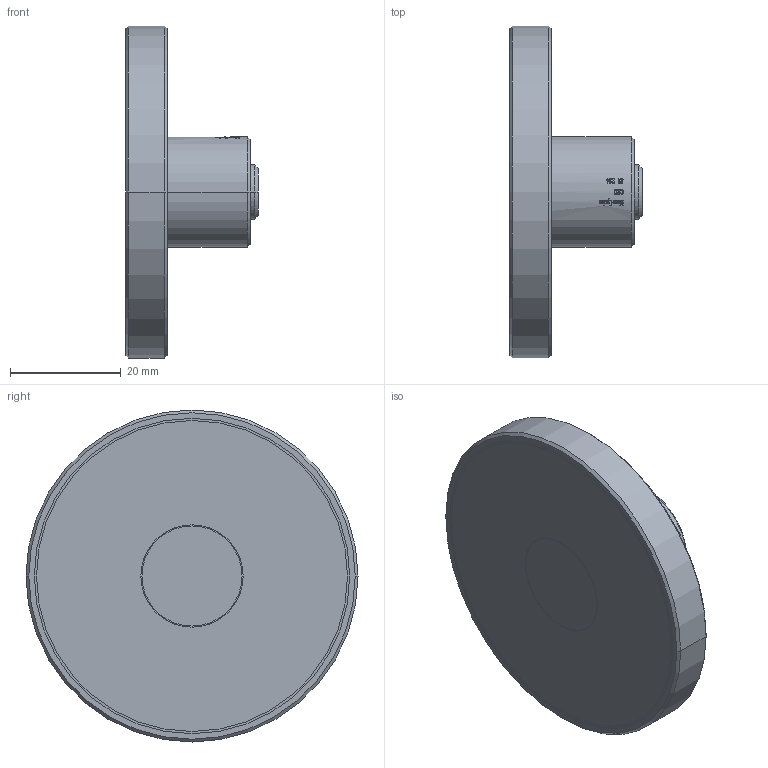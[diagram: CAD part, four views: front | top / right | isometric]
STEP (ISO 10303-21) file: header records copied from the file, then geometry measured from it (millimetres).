
FILE_DESCRIPTION((''),'2;1');
FILE_NAME('6610057-B','2009-07-30T',('11000065'),(''),'PRO/ENGINEER BY PARAMETRIC TECHNOLOGY CORPORATION, 2008490','PRO/ENGINEER BY PARAMETRIC TECHNOLOGY CORPORATION, 2008490','');
FILE_SCHEMA(('AUTOMOTIVE_DESIGN { 1 2 10303 214 0 1 1 1 }'));
Length unit declared in the file: millimetre
Products named in the file (1): 6610057-B
Bounding box: 24.02 x 60 x 60 mm (x, y, z)
Volume: 25729.3 mm3; surface area: 8142.2 mm2
Topology: 1 solids, 1 shells, 693 faces, 1940 edges, 1290 vertices
Faces by surface type: plane 629, cylinder 54, cone 8, torus 2
Entity records: 28329 total; most frequent: CARTESIAN_POINT 5646, ORIENTED_EDGE 3880, DIRECTION 2702, PRESENTATION_STYLE_ASSIGNMENT 1977, STYLED_ITEM 1943, CURVE_STYLE 1940, EDGE_CURVE 1940, VERTEX_POINT 1290
